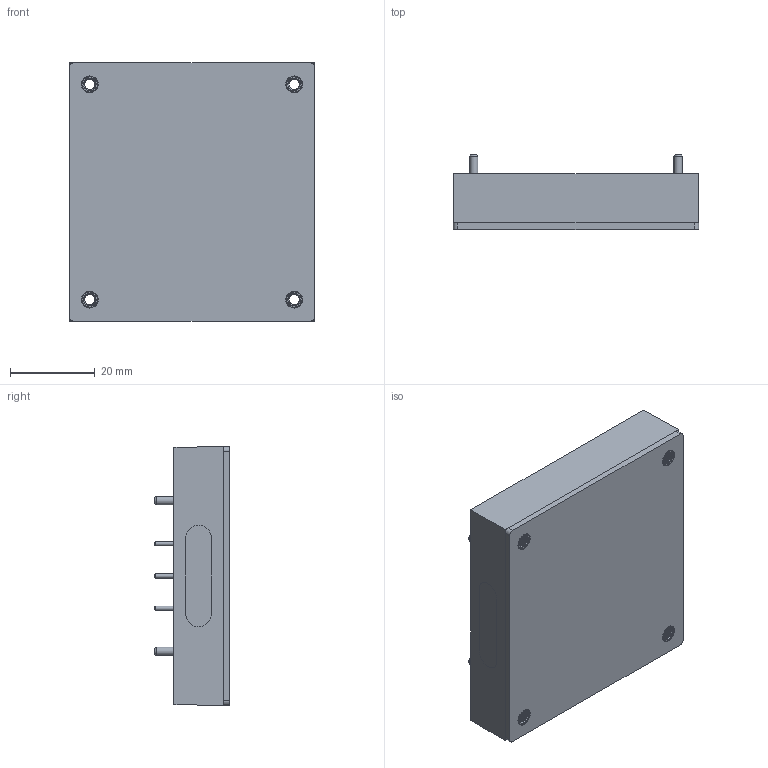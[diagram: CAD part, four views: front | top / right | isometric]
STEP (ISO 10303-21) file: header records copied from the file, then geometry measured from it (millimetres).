
FILE_DESCRIPTION (( 'STEP AP203' ), '1' );
FILE_NAME ('CHB150W,CHB200W,CHB350¦¨«~¹Ï2024.04.15.STEP', '2024-05-14T06:19:35', ( '' ), ( '' ), 'SwSTEP 2.0', 'SolidWorks 2020', '' );
FILE_SCHEMA (( 'CONFIG_CONTROL_DESIGN' ));
Length unit declared in the file: millimetre
Products named in the file (1): CHB150W,CHB200W,CHB350成品圖2024.04.15
Bounding box: 57.9 x 17.7 x 61 mm (x, y, z)
Volume: 45362.6 mm3; surface area: 11486.4 mm2
Topology: 1 solids, 2 shells, 875 faces, 2381 edges, 1589 vertices
Faces by surface type: plane 523, bspline 155, cylinder 103, cone 94
Full cylindrical faces by diameter (mm): 1 x5, 1.2 x5, 2 x4, 4 x4, 4.3 x4, 8 x1
Entity records: 44856 total; most frequent: CARTESIAN_POINT 23986, ORIENTED_EDGE 4602, DIRECTION 3713, EDGE_CURVE 2301, VERTEX_POINT 1558, VECTOR 1407, LINE 1407, AXIS2_PLACEMENT_3D 1153
